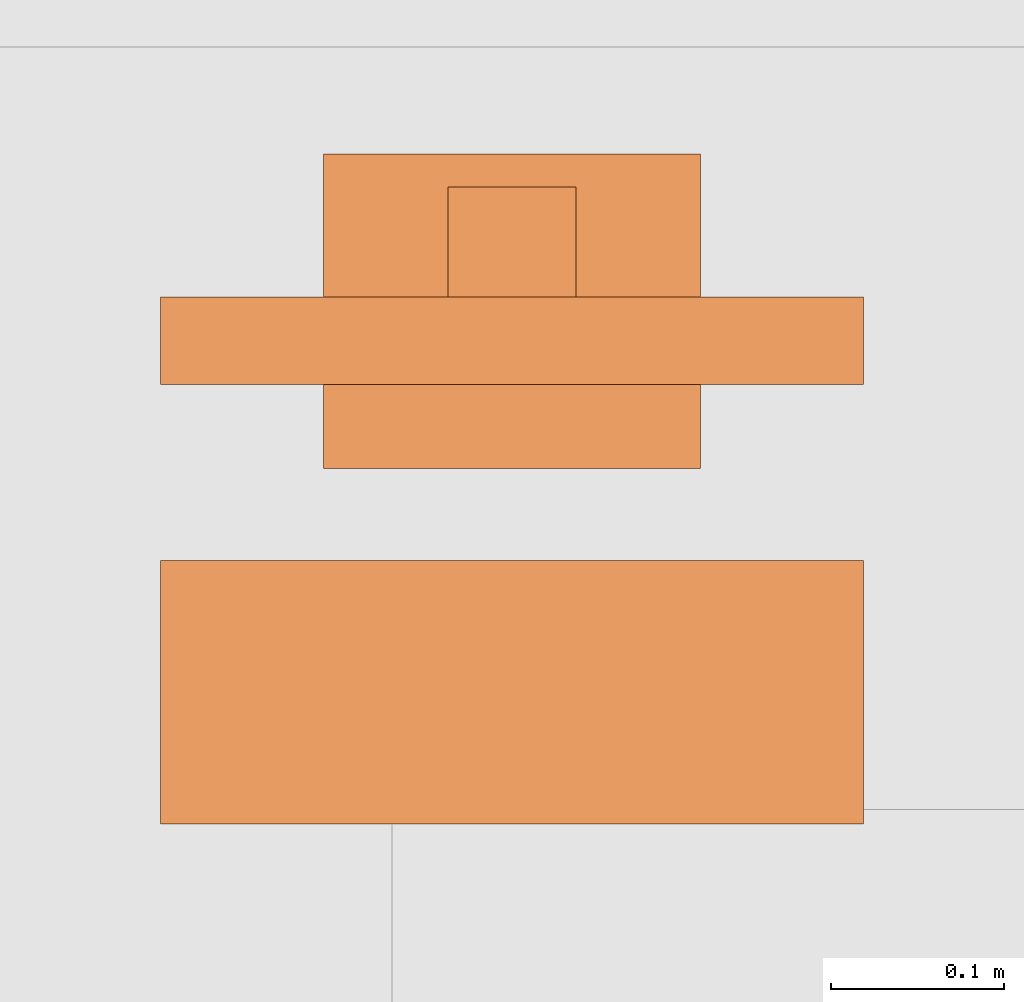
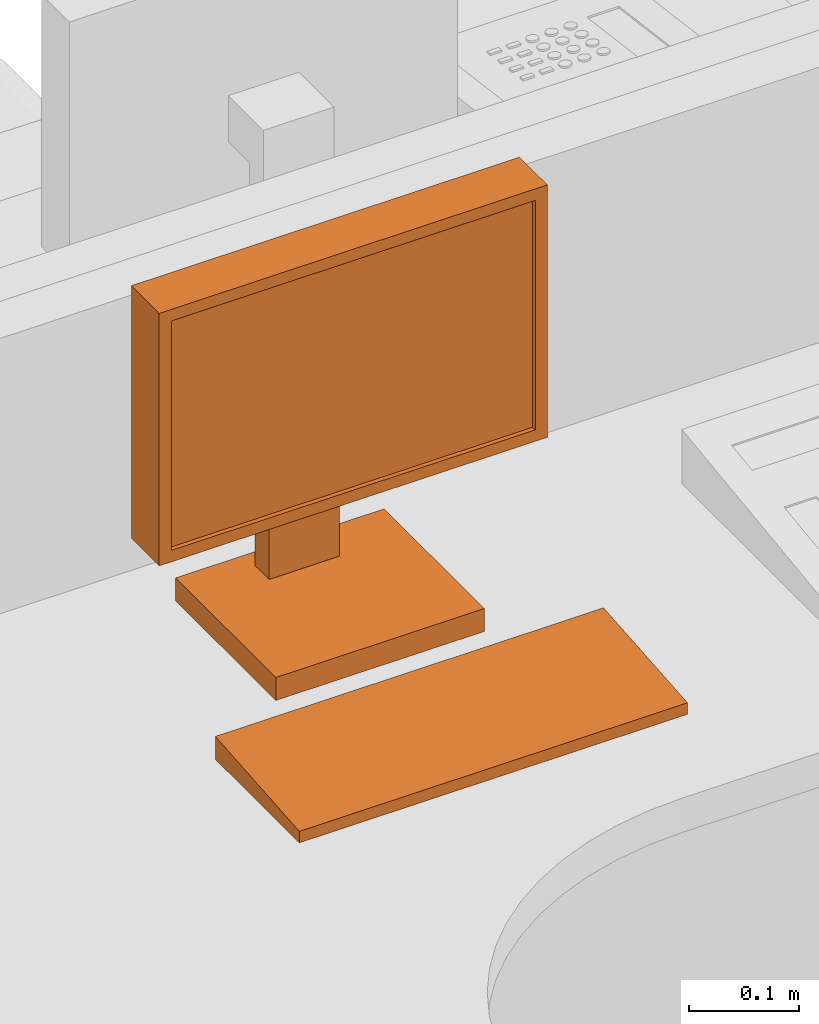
# One storey, part 96 of 142: 1 proxy.
"""IFC2X3 building model written with IfcOpenShell, lengths in feet."""

from ifc_helpers import new_model, entity, si_unit, converted_unit, derived_unit, direction, frame, origin, place, context, subcontext, project, spatial, faceted_brep, source, transform, mapped, type_object, type_shapes, element, save


model = new_model("IFC2X3")

# Units and contexts
model_context = context("Model", 3, precision=0.0001, world=origin(), true_north=direction((6.12303176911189e-17, 1.0)))
body_context = subcontext(model_context, "Body", "Model", "MODEL_VIEW")
ifc_project = project(units=[converted_unit("LENGTHUNIT", "FOOT", entity("IfcRatioMeasure", 0.3048), si_unit("LENGTHUNIT", "METRE"), dimensions=[1, 0, 0, 0, 0, 0, 0]), converted_unit("AREAUNIT", "SQUARE FOOT", entity("IfcRatioMeasure", 0.09290304), si_unit("AREAUNIT", "SQUARE_METRE"), dimensions=[2, 0, 0, 0, 0, 0, 0]), converted_unit("VOLUMEUNIT", "CUBIC FOOT", entity("IfcRatioMeasure", 0.028316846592), si_unit("VOLUMEUNIT", "CUBIC_METRE"), dimensions=[3, 0, 0, 0, 0, 0, 0]), converted_unit("PLANEANGLEUNIT", "DEGREE", entity("IfcRatioMeasure", 0.0174532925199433), si_unit("PLANEANGLEUNIT", "RADIAN"), dimensions=[0, 0, 0, 0, 0, 0, 0]), si_unit("MASSUNIT", "GRAM", prefix="KILO"), derived_unit("MASSDENSITYUNIT", [(si_unit("MASSUNIT", "GRAM", prefix="KILO"), 1), (si_unit("LENGTHUNIT", "METRE"), -3)]), si_unit("TIMEUNIT", "SECOND"), si_unit("FREQUENCYUNIT", "HERTZ"), si_unit("THERMODYNAMICTEMPERATUREUNIT", "DEGREE_CELSIUS"), derived_unit("THERMALTRANSMITTANCEUNIT", [(si_unit("MASSUNIT", "GRAM", prefix="KILO"), 1), (si_unit("THERMODYNAMICTEMPERATUREUNIT", "KELVIN"), -1), (si_unit("TIMEUNIT", "SECOND"), -3)]), derived_unit("VOLUMETRICFLOWRATEUNIT", [(si_unit("LENGTHUNIT", "METRE"), 3), (si_unit("TIMEUNIT", "SECOND"), -1)]), si_unit("ELECTRICCURRENTUNIT", "AMPERE"), si_unit("ELECTRICVOLTAGEUNIT", "VOLT"), si_unit("POWERUNIT", "WATT"), si_unit("FORCEUNIT", "NEWTON"), si_unit("ILLUMINANCEUNIT", "LUX"), si_unit("LUMINOUSFLUXUNIT", "LUMEN"), si_unit("LUMINOUSINTENSITYUNIT", "CANDELA"), derived_unit("USERDEFINED", [(si_unit("MASSUNIT", "GRAM", prefix="KILO"), -1), (si_unit("LENGTHUNIT", "METRE"), -2), (si_unit("TIMEUNIT", "SECOND"), 3), (si_unit("LUMINOUSFLUXUNIT", "LUMEN"), 1)]), derived_unit("LINEARVELOCITYUNIT", [(si_unit("LENGTHUNIT", "METRE"), 1), (si_unit("TIMEUNIT", "SECOND"), -1)]), si_unit("PRESSUREUNIT", "PASCAL"), derived_unit("USERDEFINED", [(si_unit("LENGTHUNIT", "METRE"), -2), (si_unit("MASSUNIT", "GRAM", prefix="KILO"), 1), (si_unit("TIMEUNIT", "SECOND"), -2)])], contexts=[model_context])

# Site, building, storey, space
site_placement = place(None, origin())
site = spatial("IfcSite", under=ifc_project, at=site_placement, Name="Default", CompositionType="ELEMENT")
building_placement = place(site_placement, origin())
building = spatial("IfcBuilding", under=site, at=building_placement, Name="OUTPATIENT / PACT CLINIC (Ch. 265)", CompositionType="ELEMENT")
storey_placement = place(building_placement, origin())
storey = spatial("IfcBuildingStorey", under=building, at=storey_placement, Name="LEVEL 1", CompositionType="ELEMENT", Elevation=0.0)
space_placement = place(storey_placement, origin())
space = spatial("IfcSpace", under=storey, at=space_placement, Name="WRTM1", CompositionType="ELEMENT", InteriorOrExteriorSpace="INTERNAL")

# Proxy
building_element_proxy_type = type_object("IfcBuildingElementProxyType", Name="M1801 - Computer with Flat Panel Monitor", PredefinedType="NOTDEFINED")
shared_shape = source(origin(), body_context, "Body", "Brep", [
    faceted_brep([(0.666666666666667, 0.5625, 0.0), (0.666666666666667, 0.5625, 0.0416666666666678), (0.666666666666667, 0.0624999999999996, 0.0833333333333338), (0.666666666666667, 0.0624999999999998, 0.0), (-0.666666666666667, 0.5625, 0.0), (-0.666666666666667, 0.0624999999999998, 0.0), (-0.666666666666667, 0.0624999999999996, 0.0833333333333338), (-0.666666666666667, 0.5625, 0.0416666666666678)], [[[0, 1, 2, 3]], [[4, 5, 6, 7]], [[3, 5, 4, 0]], [[2, 6, 5, 3]], [[1, 7, 6, 2]], [[0, 4, 7, 1]]]),
    faceted_brep([(0.666666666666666, -0.437223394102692, 1.41666666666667), (0.666666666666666, -0.271109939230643, 1.41666666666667), (-0.666666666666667, -0.271109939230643, 1.41666666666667), (-0.666666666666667, -0.437223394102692, 1.41666666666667), (0.666666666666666, -0.437223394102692, 0.500000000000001), (-0.666666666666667, -0.437223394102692, 0.500000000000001), (-0.666666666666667, -0.271109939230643, 0.500000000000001), (0.666666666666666, -0.271109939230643, 0.500000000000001), (-0.625, -0.271109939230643, 1.375), (-0.625, -0.271109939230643, 0.541666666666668), (0.625, -0.271109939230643, 0.541666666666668), (0.625, -0.271109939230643, 1.375), (0.625, -0.286812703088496, 1.375), (-0.625, -0.286812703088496, 1.375), (0.625, -0.286812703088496, 0.541666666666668), (-0.625, -0.286812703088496, 0.541666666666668)], [[[0, 1, 2, 3]], [[4, 5, 6, 7]], [[3, 5, 4, 0]], [[2, 6, 5, 3]], [[8, 9, 10, 11], [1, 7, 6, 2]], [[0, 4, 7, 1]], [[12, 13, 8, 11]], [[14, 10, 9, 15]], [[12, 14, 15, 13]], [[13, 15, 9, 8]], [[11, 10, 14, 12]]], outer=[[True], [True], [True], [True], [False, True], [True], [True], [True], [True], [True], [True]]),
    faceted_brep([(0.358011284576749, -0.111770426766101, 0.0833333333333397), (0.358011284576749, -0.708333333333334, 0.0833333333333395), (0.358011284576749, -0.708333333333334, 0.0), (0.358011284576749, -0.111770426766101, 0.0), (-0.358011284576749, -0.708333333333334, 0.0833333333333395), (-0.358011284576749, -0.111770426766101, 0.0833333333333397), (-0.358011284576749, -0.111770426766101, 0.0), (-0.358011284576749, -0.708333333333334, 0.0), (0.12128795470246, -0.645556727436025, 0.104166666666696), (-0.12128795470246, -0.645556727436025, 0.104166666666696), (-0.12128795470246, -0.645556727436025, 0.0833333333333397), (0.12128795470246, -0.645556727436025, 0.0833333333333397), (0.12128795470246, -0.645556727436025, 0.958333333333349), (-0.12128795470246, -0.645556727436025, 0.958333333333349), (0.12128795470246, -0.437223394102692, 0.958333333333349), (-0.12128795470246, -0.437223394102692, 0.958333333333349), (0.12128795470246, -0.437223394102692, 0.791666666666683), (-0.12128795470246, -0.437223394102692, 0.791666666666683), (0.12128795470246, -0.562223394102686, 0.791666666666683), (-0.12128795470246, -0.562223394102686, 0.791666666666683), (0.12128795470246, -0.562223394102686, 0.0833333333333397), (-0.12128795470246, -0.562223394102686, 0.0833333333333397)], [[[0, 1, 2, 3]], [[4, 5, 6, 7]], [[8, 9, 10, 11]], [[12, 13, 9, 8]], [[14, 15, 13, 12]], [[16, 17, 15, 14]], [[18, 19, 17, 16]], [[20, 21, 19, 18]], [[11, 10, 21, 20], [0, 5, 4, 1]], [[3, 6, 5, 0]], [[2, 7, 6, 3]], [[1, 4, 7, 2]], [[20, 18, 16, 14, 12, 8, 11]], [[10, 9, 13, 15, 17, 19, 21]]], outer=[[True], [True], [True], [True], [True], [True], [True], [True], [False, True], [True], [True], [True], [True], [True]]),
])
type_shapes(building_element_proxy_type, [shared_shape])
proxy_placement = place(space_placement, frame((411.586447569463, -923.698016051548, 2.49999999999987), z_axis=(0.0, 0.0, 1.0), x_axis=(-1.0, 0.0, 0.0)))
element("IfcBuildingElementProxy", 1, at=proxy_placement, inside=space, type_object=building_element_proxy_type, Name="M1801 - Computer with Flat Panel Monitor:M1801 - Computer with Flat Panel Monitor", ObjectType="M1801 - Computer with Flat Panel Monitor", context=body_context, shape_type="MappedRepresentation", body=[
    mapped(shared_shape, transform((0.0, 0.0, 0.0), scale=1.0)),
])

save(model, "model.ifc")
